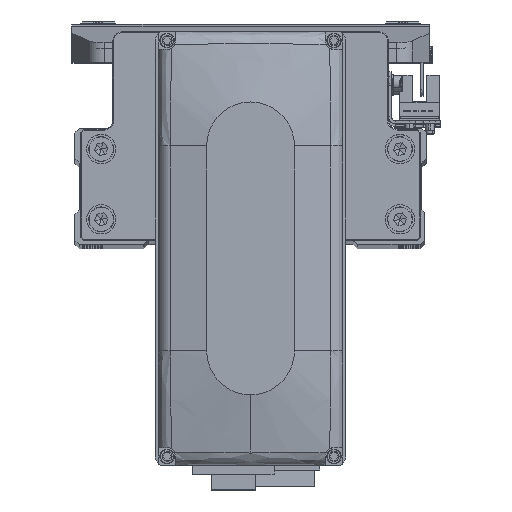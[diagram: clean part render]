
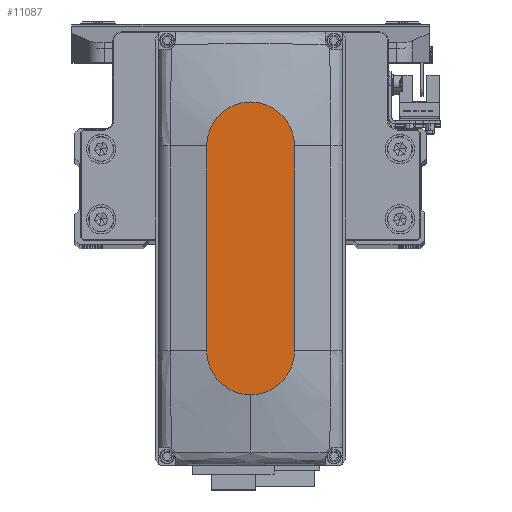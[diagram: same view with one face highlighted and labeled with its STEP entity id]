
A CAD part, top view. The second image highlights one B-rep face of the part: STEP entity #11087.
In plain terms, the highlighted planar face has unit normal (0, 0, 1).
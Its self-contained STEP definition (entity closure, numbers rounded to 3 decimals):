
#195 = EDGE_LOOP ( 'NONE', ( #10551, #33590, #34028, #5948, #42727 ) ) ;
#1459 = VERTEX_POINT ( 'NONE', #15937 ) ;
#1915 = CIRCLE ( 'NONE', #27907, 15. ) ;
#5948 = ORIENTED_EDGE ( 'NONE', *, *, #36729, .T. ) ;
#6262 = DIRECTION ( 'NONE',  ( -1., 0., 0. ) ) ;
#7119 = CARTESIAN_POINT ( 'NONE',  ( 0., 0., 35. ) ) ;
#9290 = CARTESIAN_POINT ( 'NONE',  ( -35., -15., 35. ) ) ;
#10053 = CARTESIAN_POINT ( 'NONE',  ( 50., 0., 35. ) ) ;
#10551 = ORIENTED_EDGE ( 'NONE', *, *, #35785, .T. ) ;
#11087 = ADVANCED_FACE ( 'NONE', ( #24801 ), #38956, .T. ) ;
#11528 = DIRECTION ( 'NONE',  ( 1., 0., 0. ) ) ;
#12514 = AXIS2_PLACEMENT_3D ( 'NONE', #29191, #43354, #11528 ) ;
#12886 = AXIS2_PLACEMENT_3D ( 'NONE', #7119, #21298, #35468 ) ;
#13035 = DIRECTION ( 'NONE',  ( 0., 0., 1. ) ) ;
#13175 = VECTOR ( 'NONE', #44925, 1000. ) ;
#13621 = VERTEX_POINT ( 'NONE', #9290 ) ;
#14093 = EDGE_CURVE ( 'NONE', #28048, #26421, #1915, .T. ) ;
#15937 = CARTESIAN_POINT ( 'NONE',  ( -35., 15., 35. ) ) ;
#16150 = VERTEX_POINT ( 'NONE', #29466 ) ;
#16597 = LINE ( 'NONE', #30775, #13175 ) ;
#16735 = EDGE_CURVE ( 'NONE', #13621, #16150, #16597, .T. ) ;
#17787 = EDGE_CURVE ( 'NONE', #1459, #13621, #32558, .T. ) ;
#20788 = DIRECTION ( 'NONE',  ( 0., 0., 1. ) ) ;
#21298 = DIRECTION ( 'NONE',  ( 0., 0., 1. ) ) ;
#23944 = LINE ( 'NONE', #38103, #26674 ) ;
#24536 = AXIS2_PLACEMENT_3D ( 'NONE', #41936, #20788, #34965 ) ;
#24801 = FACE_OUTER_BOUND ( 'NONE', #195, .T. ) ;
#26421 = VERTEX_POINT ( 'NONE', #31949 ) ;
#26674 = VECTOR ( 'NONE', #6262, 1000. ) ;
#27210 = DIRECTION ( 'NONE',  ( 1., 0., 0. ) ) ;
#27907 = AXIS2_PLACEMENT_3D ( 'NONE', #44859, #13035, #27210 ) ;
#28048 = VERTEX_POINT ( 'NONE', #10053 ) ;
#29191 = CARTESIAN_POINT ( 'NONE',  ( -35., 0., 35. ) ) ;
#29466 = CARTESIAN_POINT ( 'NONE',  ( 35., -15., 35. ) ) ;
#30775 = CARTESIAN_POINT ( 'NONE',  ( -35., -15., 35. ) ) ;
#31949 = CARTESIAN_POINT ( 'NONE',  ( 35., 15., 35. ) ) ;
#32558 = CIRCLE ( 'NONE', #12514, 15. ) ;
#33590 = ORIENTED_EDGE ( 'NONE', *, *, #17787, .T. ) ;
#34028 = ORIENTED_EDGE ( 'NONE', *, *, #16735, .T. ) ;
#34965 = DIRECTION ( 'NONE',  ( 1., 0., 0. ) ) ;
#35468 = DIRECTION ( 'NONE',  ( 1., 0., 0. ) ) ;
#35785 = EDGE_CURVE ( 'NONE', #26421, #1459, #23944, .T. ) ;
#36729 = EDGE_CURVE ( 'NONE', #16150, #28048, #44527, .T. ) ;
#38103 = CARTESIAN_POINT ( 'NONE',  ( -35., 15., 35. ) ) ;
#38956 = PLANE ( 'NONE',  #12886 ) ;
#41936 = CARTESIAN_POINT ( 'NONE',  ( 35., 0., 35. ) ) ;
#42727 = ORIENTED_EDGE ( 'NONE', *, *, #14093, .T. ) ;
#43354 = DIRECTION ( 'NONE',  ( 0., 0., 1. ) ) ;
#44527 = CIRCLE ( 'NONE', #24536, 15. ) ;
#44859 = CARTESIAN_POINT ( 'NONE',  ( 35., 0., 35. ) ) ;
#44925 = DIRECTION ( 'NONE',  ( 1., 0., 0. ) ) ;
